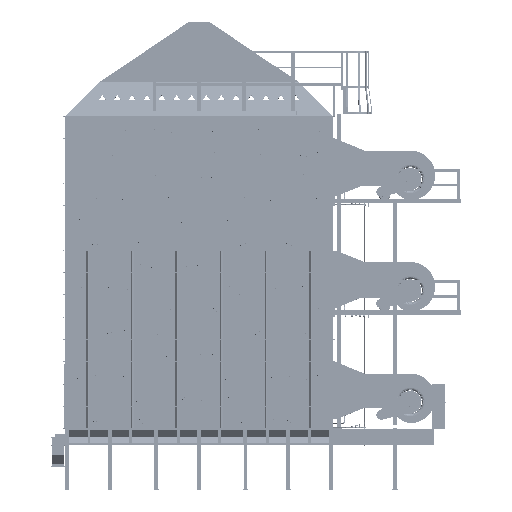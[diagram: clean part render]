
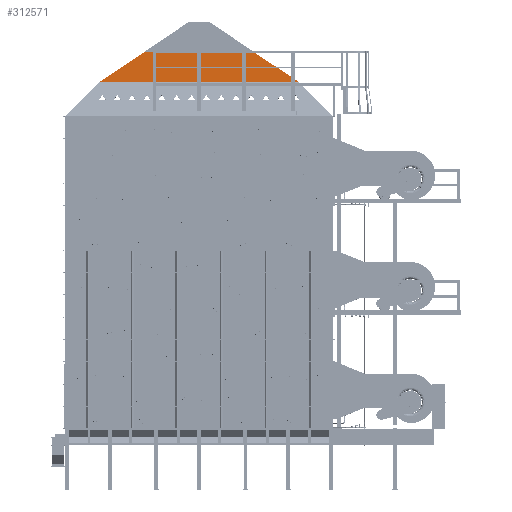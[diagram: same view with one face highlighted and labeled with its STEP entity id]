
A CAD part, top view. The second image highlights one B-rep face of the part: STEP entity #312571.
In plain terms, the highlighted planar face has unit normal (0, 0, 1) as drawn and (0, -1, 0) by its records, which use the part's own axes.
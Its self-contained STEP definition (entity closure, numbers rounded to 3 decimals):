
#47094=FACE_OUTER_BOUND('',#64902,.T.);
#64902=EDGE_LOOP('',(#214645,#214646,#214647,#214648));
#85604=LINE('',#445118,#111661);
#85609=LINE('',#445129,#111666);
#85612=LINE('',#445135,#111669);
#85615=LINE('',#445140,#111672);
#111661=VECTOR('',#362125,0.394);
#111666=VECTOR('',#362140,0.394);
#111669=VECTOR('',#362145,0.394);
#111672=VECTOR('',#362150,0.394);
#137302=VERTEX_POINT('',#445111);
#137305=VERTEX_POINT('',#445116);
#137306=VERTEX_POINT('',#445128);
#137308=VERTEX_POINT('',#445134);
#167248=EDGE_CURVE('',#137302,#137305,#85604,.T.);
#167253=EDGE_CURVE('',#137305,#137306,#85609,.T.);
#167256=EDGE_CURVE('',#137308,#137302,#85612,.T.);
#167259=EDGE_CURVE('',#137308,#137306,#85615,.T.);
#214645=ORIENTED_EDGE('',*,*,#167253,.T.);
#214646=ORIENTED_EDGE('',*,*,#167259,.F.);
#214647=ORIENTED_EDGE('',*,*,#167256,.T.);
#214648=ORIENTED_EDGE('',*,*,#167248,.T.);
#304231=PLANE('',#332082);
#312571=ADVANCED_FACE('',(#47094),#304231,.T.);
#332082=AXIS2_PLACEMENT_3D('',#445139,#362148,#362149);
#362125=DIRECTION('',(-1.,0.,0.));
#362140=DIRECTION('',(-0.833,0.,-0.553));
#362145=DIRECTION('',(-0.833,0.,0.553));
#362148=DIRECTION('center_axis',(0.,-1.,0.));
#362149=DIRECTION('ref_axis',(0.,0.,-1.));
#362150=DIRECTION('',(-1.,0.,0.));
#445111=CARTESIAN_POINT('',(58.625,-6.,68.042));
#445116=CARTESIAN_POINT('',(-58.625,-6.,68.042));
#445118=CARTESIAN_POINT('',(-106.75,-6.,68.042));
#445128=CARTESIAN_POINT('',(-106.75,-6.,36.079));
#445129=CARTESIAN_POINT('',(-8.613,-6.,101.258));
#445134=CARTESIAN_POINT('',(106.75,-6.,36.079));
#445135=CARTESIAN_POINT('',(106.75,-6.,36.079));
#445139=CARTESIAN_POINT('Origin',(106.75,-6.,36.079));
#445140=CARTESIAN_POINT('',(53.375,-6.,36.079));
